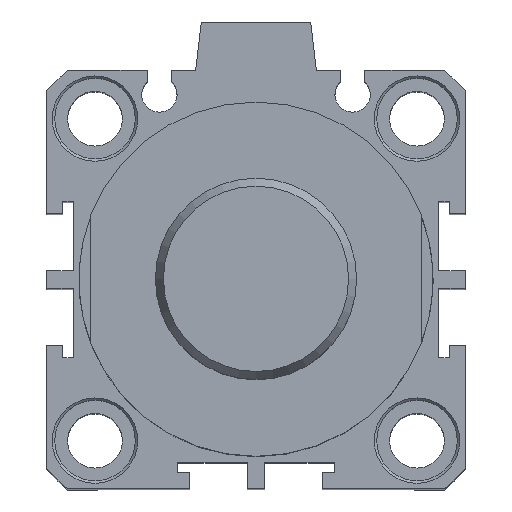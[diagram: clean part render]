
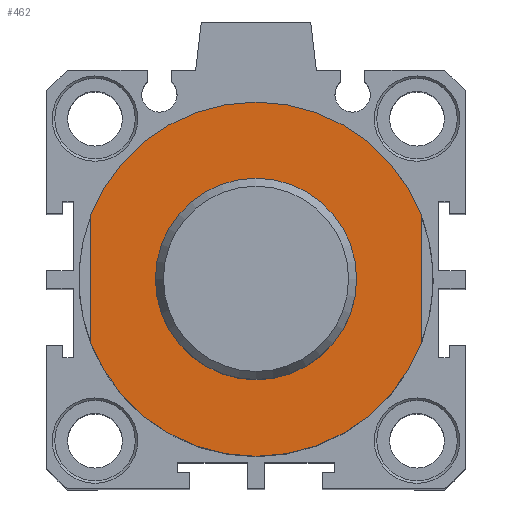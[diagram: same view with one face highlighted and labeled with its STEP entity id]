
A CAD part, top view. The second image highlights one B-rep face of the part: STEP entity #462.
In plain terms, the highlighted planar face has unit normal (0, 0, 1).
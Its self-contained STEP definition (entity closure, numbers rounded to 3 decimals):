
#77=CARTESIAN_POINT('',(0.598,14.055,105.2));
#78=VERTEX_POINT('',#77);
#79=CARTESIAN_POINT('',(0.598,1.555,105.2));
#80=DIRECTION('',(0.0,0.0,-1.0));
#81=DIRECTION('',(0.0,1.0,0.0));
#82=AXIS2_PLACEMENT_3D('',#79,#80,#81);
#83=CIRCLE('',#82,12.5);
#84=EDGE_CURVE('',#78,#78,#83,.T.);
#339=CARTESIAN_POINT('',(21.098,9.539,105.2));
#340=VERTEX_POINT('',#339);
#347=CARTESIAN_POINT('',(21.098,-6.429,105.2));
#348=VERTEX_POINT('',#347);
#349=CARTESIAN_POINT('',(21.098,-6.429,105.2));
#350=DIRECTION('',(0.0,1.0,0.0));
#351=VECTOR('',#350,15.969);
#352=LINE('',#349,#351);
#353=EDGE_CURVE('',#348,#340,#352,.T.);
#395=CARTESIAN_POINT('',(-19.902,-6.429,105.2));
#396=VERTEX_POINT('',#395);
#403=CARTESIAN_POINT('',(-19.902,9.539,105.2));
#404=VERTEX_POINT('',#403);
#405=CARTESIAN_POINT('',(-19.902,9.539,105.2));
#406=DIRECTION('',(0.0,-1.0,0.0));
#407=VECTOR('',#406,15.969);
#408=LINE('',#405,#407);
#409=EDGE_CURVE('',#404,#396,#408,.T.);
#436=CARTESIAN_POINT('',(0.598,18.805,105.2));
#437=DIRECTION('',(0.0,0.0,1.0));
#438=DIRECTION('',(1.0,0.0,0.0));
#439=AXIS2_PLACEMENT_3D('',#436,#437,#438);
#440=PLANE('',#439);
#441=ORIENTED_EDGE('',*,*,#353,.T.);
#442=CARTESIAN_POINT('',(0.598,1.555,105.2));
#443=DIRECTION('',(0.0,0.0,-1.0));
#444=DIRECTION('',(0.0,1.0,0.0));
#445=AXIS2_PLACEMENT_3D('',#442,#443,#444);
#446=CIRCLE('',#445,22.);
#447=EDGE_CURVE('',#404,#340,#446,.T.);
#448=ORIENTED_EDGE('',*,*,#447,.F.);
#449=ORIENTED_EDGE('',*,*,#409,.T.);
#450=CARTESIAN_POINT('',(0.598,1.555,105.2));
#451=DIRECTION('',(0.0,0.0,-1.0));
#452=DIRECTION('',(0.0,1.0,0.0));
#453=AXIS2_PLACEMENT_3D('',#450,#451,#452);
#454=CIRCLE('',#453,22.);
#455=EDGE_CURVE('',#348,#396,#454,.T.);
#456=ORIENTED_EDGE('',*,*,#455,.F.);
#457=EDGE_LOOP('',(#441,#448,#449,#456));
#458=FACE_OUTER_BOUND('',#457,.T.);
#459=ORIENTED_EDGE('',*,*,#84,.T.);
#460=EDGE_LOOP('',(#459));
#461=FACE_BOUND('',#460,.T.);
#462=ADVANCED_FACE('',(#458,#461),#440,.T.);
